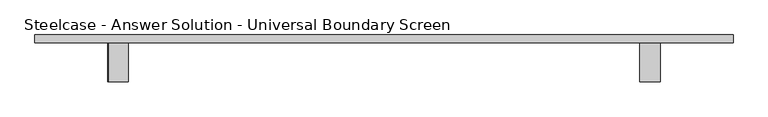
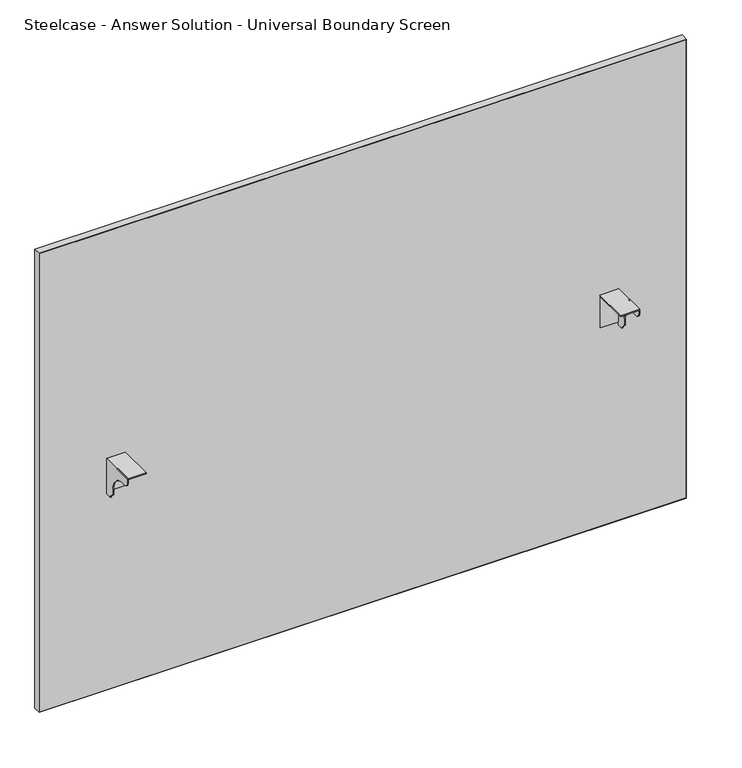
"""IFC4 building model written with IfcOpenShell, lengths in millimetres: furniture geometry, Steelcase - Answer Solution - Universal Boundary Screen : 54H x 72W."""

from ifc_helpers import new_model, si_unit, point, frame, frame_2d, origin, place, context, project, spatial, polyline, circle_curve, trimmed, segment, composite_curve, outline, extrude, source, transform, mapped, element, save


def steelcase_answer_solution_universal_boundary_screen_bc2de26f(model_context):
    return source(origin(), model_context, "Body", "SweptSolid", [
        extrude(outline(polyline([(-103.1670434, 689.3558876), (-103.1670434, 692.1499758), (-1.5668826, 692.1499758), (-1.5668826, 595.5029317), (-4.1079736, 595.5029317), (-4.1079736, 689.3558876), (-103.1670434, 689.3558876)])), frame((1200.6336711, 0.0, 0.0), z_axis=(1.0, 0.0, 0.0), x_axis=(0.0, 1.0, 0.0)), (0.0, 0.0, 1.0), 53.3444116),
        extrude(outline(composite_curve([segment(polyline([(-103.1670434, 679.2814802), (-103.1670434, 692.1499758), (-1.5668826, 692.1499758), (-1.5668826, 586.9634093), (-19.8232934, 586.9634093), (-19.8232934, 589.7574248), (-32.0458032, 601.9799346), (-32.0458032, 615.7814802)]), True, "CONTINUOUS"), segment(trimmed(circle_curve(frame_2d((-82.8458032, 615.7814802)), 50.8), [point((-32.0458032, 615.7814802))], [point((-82.8458032, 666.5814802))], True, "CARTESIAN"), True, "CONTINUOUS"), segment(polyline([(-82.8458032, 666.5814802), (-90.4670434, 666.5814802)]), True, "CONTINUOUS"), segment(trimmed(circle_curve(frame_2d((-90.4670434, 679.2814802)), 12.7), [point((-90.4670434, 666.5814802))], [point((-103.1670434, 679.2814802))], False, "CARTESIAN"), True, "CONTINUOUS")], self_intersect=False)), frame((1251.4328959, 0.0, 0.0), z_axis=(1.0, 0.0, 0.0), x_axis=(0.0, 1.0, 0.0)), (0.0, 0.0, 1.0), 2.5451868),
        extrude(outline(polyline([(-103.1670434, 689.3558876), (-103.1670434, 692.1499758), (-1.5668826, 692.1499758), (-1.5668826, 595.5029317), (-4.1079736, 595.5029317), (-4.1079736, 689.3558876), (-103.1670434, 689.3558876)])), frame((-191.2767306, 0.0, 0.0), z_axis=(1.0, 0.0, 0.0), x_axis=(0.0, 1.0, 0.0)), (0.0, 0.0, 1.0), 50.7992249),
        extrude(outline(composite_curve([segment(polyline([(-103.1670434, 679.2814802), (-103.1670434, 692.1499758), (-1.5668826, 692.1499758), (-1.5668826, 586.9634093), (-19.8232934, 586.9634093), (-19.8232934, 589.7574248), (-32.0458032, 601.9799346), (-32.0458032, 615.7814802)]), True, "CONTINUOUS"), segment(trimmed(circle_curve(frame_2d((-82.8458032, 615.7814802)), 50.8), [point((-32.0458032, 615.7814802))], [point((-82.8458032, 666.5814802))], True, "CARTESIAN"), True, "CONTINUOUS"), segment(polyline([(-82.8458032, 666.5814802), (-90.4670434, 666.5814802)]), True, "CONTINUOUS"), segment(trimmed(circle_curve(frame_2d((-90.4670434, 679.2814802)), 12.7), [point((-90.4670434, 666.5814802))], [point((-103.1670434, 679.2814802))], False, "CARTESIAN"), True, "CONTINUOUS")], self_intersect=False)), frame((-193.8219173, 0.0, 0.0), z_axis=(1.0, 0.0, 0.0), x_axis=(0.0, 1.0, 0.0)), (0.0, 0.0, 1.0), 2.5451868),
        extrude(outline(polyline([(-383.3293422, 18.9055112), (1443.4855076, 18.9055112), (1443.4855076, -1.5668826), (-383.3293422, -1.5668826), (-383.3293422, 18.9055112)])), frame((0.0, 0.0, 1.016), z_axis=(0.0, 0.0, 1.0), x_axis=(1.0, 0.0, 0.0)), (0.0, 0.0, 1.0), 1369.5914249),
        extrude(outline(polyline([(1371.6, 1444.4780827), (1371.6, -384.3219173), (0.0, -384.3219173), (0.0, 1444.4780827), (1371.6, 1444.4780827)]), holes=[polyline([(1370.6074249, 1443.4855076), (1.016, 1443.4855076), (1.016, -383.3293422), (1370.6074249, -383.3293422), (1370.6074249, 1443.4855076)])]), frame((0.0, -1.5668826, 0.0), z_axis=(0.0, 1.0, 0.0), x_axis=(0.0, 0.0, 1.0)), (0.0, 0.0, 1.0), 20.4723938),
    ])


if __name__ == "__main__":
    model = new_model("IFC4")
    model_context = context("Model", 3, world=origin())
    ifc_project = project(units=[si_unit("LENGTHUNIT", "METRE", prefix="MILLI")], contexts=[model_context])
    site = spatial("IfcSite", under=ifc_project)
    building = spatial("IfcBuilding", under=site)
    placement = place(None, origin())
    steelcase_answer_solution_universal_boundary_screen_shape = steelcase_answer_solution_universal_boundary_screen_bc2de26f(model_context)
    element("IfcFurniture", 1, ObjectType="Steelcase - Answer Solution - Universal Boundary Screen : 54H x 72W", at=placement, inside=building, context=model_context, shape_type="MappedRepresentation", body=[
        mapped(steelcase_answer_solution_universal_boundary_screen_shape, transform((0.0, 0.0, 0.0), x_axis=(1.0, 0.0, 0.0), y_axis=(0.0, 1.0, 0.0), z_axis=(0.0, 0.0, 1.0))),
    ])
    save(model, "model.ifc")
